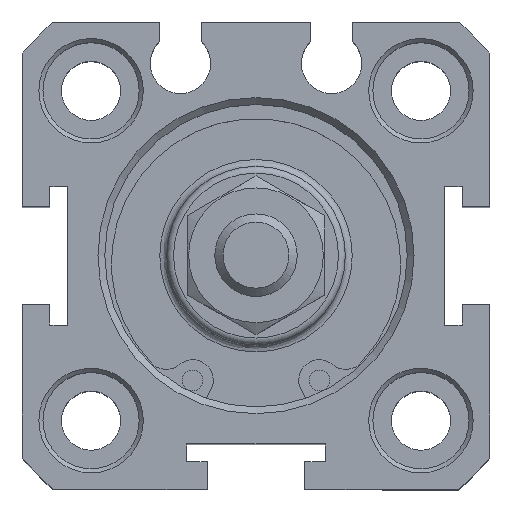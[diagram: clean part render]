
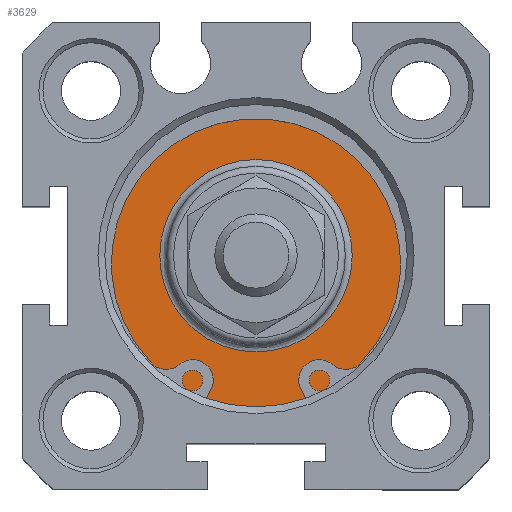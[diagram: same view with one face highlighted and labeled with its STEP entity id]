
A CAD part, top view. The second image highlights one B-rep face of the part: STEP entity #3629.
In plain terms, the highlighted planar face has unit normal (0, 0, 1).
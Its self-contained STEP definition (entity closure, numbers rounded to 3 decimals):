
#3567=CARTESIAN_POINT('',(0.957,6.522,26.8));
#3568=VERTEX_POINT('',#3567);
#3569=CARTESIAN_POINT('',(0.957,-0.478,26.8));
#3570=DIRECTION('',(0.0,0.0,1.0));
#3571=DIRECTION('',(0.0,-1.0,0.0));
#3572=AXIS2_PLACEMENT_3D('',#3569,#3570,#3571);
#3573=CIRCLE('',#3572,7.);
#3574=EDGE_CURVE('',#3568,#3568,#3573,.T.);
#3610=CARTESIAN_POINT('',(0.957,8.272,26.8));
#3611=DIRECTION('',(0.0,0.0,1.0));
#3612=DIRECTION('',(1.0,0.0,0.0));
#3613=AXIS2_PLACEMENT_3D('',#3610,#3611,#3612);
#3614=PLANE('',#3613);
#3615=CARTESIAN_POINT('',(0.957,10.522,26.8));
#3616=VERTEX_POINT('',#3615);
#3617=CARTESIAN_POINT('',(0.957,-0.478,26.8));
#3618=DIRECTION('',(0.0,0.0,1.0));
#3619=DIRECTION('',(0.0,1.0,0.0));
#3620=AXIS2_PLACEMENT_3D('',#3617,#3618,#3619);
#3621=CIRCLE('',#3620,11.);
#3622=EDGE_CURVE('',#3616,#3616,#3621,.T.);
#3623=ORIENTED_EDGE('',*,*,#3622,.T.);
#3624=EDGE_LOOP('',(#3623));
#3625=FACE_OUTER_BOUND('',#3624,.T.);
#3626=ORIENTED_EDGE('',*,*,#3574,.F.);
#3627=EDGE_LOOP('',(#3626));
#3628=FACE_BOUND('',#3627,.T.);
#3629=ADVANCED_FACE('',(#3625,#3628),#3614,.T.);
